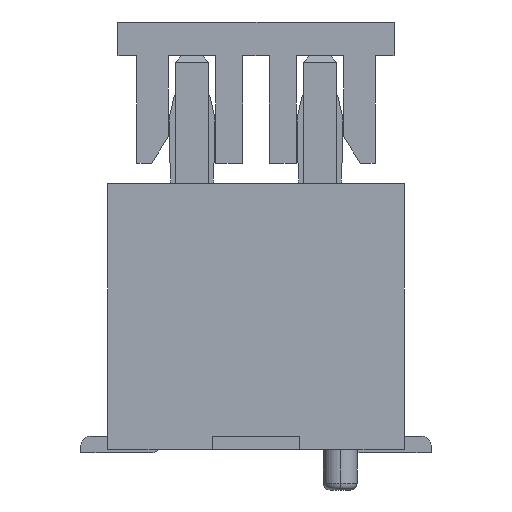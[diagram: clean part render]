
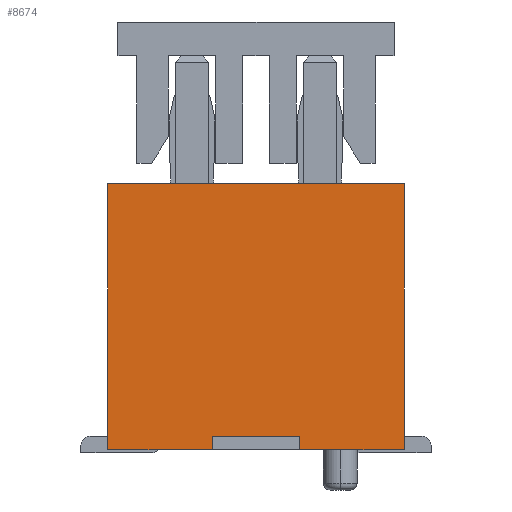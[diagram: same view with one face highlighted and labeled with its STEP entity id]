
A CAD part, left-side view. The second image highlights one B-rep face of the part: STEP entity #8674.
In plain terms, the highlighted planar face has unit normal (-1, 0, 0).
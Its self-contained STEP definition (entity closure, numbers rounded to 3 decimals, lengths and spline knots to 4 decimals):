
#1125 = CARTESIAN_POINT ( 'NONE',  ( -4.95, 0., 0.2 ) ) ;
#1767 = ORIENTED_EDGE ( 'NONE', *, *, #16684, .F. ) ;
#2089 = CARTESIAN_POINT ( 'NONE',  ( -4.95, 2.2, 3.95 ) ) ;
#2774 = VERTEX_POINT ( 'NONE', #34217 ) ;
#5104 = VERTEX_POINT ( 'NONE', #18031 ) ;
#7087 = EDGE_LOOP ( 'NONE', ( #42285, #20546, #53380, #12403, #53013, #1767, #44336, #43879 ) ) ;
#7110 = AXIS2_PLACEMENT_3D ( 'NONE', #16045, #35564, #45152 ) ;
#7736 = LINE ( 'NONE', #26304, #55014 ) ;
#7847 = LINE ( 'NONE', #41426, #17289 ) ;
#8179 = DIRECTION ( 'NONE',  ( 0., 0., 1. ) ) ;
#8535 = LINE ( 'NONE', #21990, #32564 ) ;
#8674 = ADVANCED_FACE ( 'NONE', ( #44524 ), #25979, .F. ) ;
#8841 = DIRECTION ( 'NONE',  ( 0., 1., 0. ) ) ;
#12403 = ORIENTED_EDGE ( 'NONE', *, *, #62633, .F. ) ;
#12580 = CARTESIAN_POINT ( 'NONE',  ( -4.95, 0.65, 0.2 ) ) ;
#13134 = VERTEX_POINT ( 'NONE', #23618 ) ;
#16045 = CARTESIAN_POINT ( 'NONE',  ( -4.95, 0., 0. ) ) ;
#16684 = EDGE_CURVE ( 'NONE', #5104, #13134, #48354, .T. ) ;
#17289 = VECTOR ( 'NONE', #8179, 1000. ) ;
#18031 = CARTESIAN_POINT ( 'NONE',  ( -4.95, -2.2, 3.95 ) ) ;
#18630 = VECTOR ( 'NONE', #56003, 1000. ) ;
#18974 = DIRECTION ( 'NONE',  ( 0., 0., -1. ) ) ;
#20546 = ORIENTED_EDGE ( 'NONE', *, *, #33921, .T. ) ;
#21990 = CARTESIAN_POINT ( 'NONE',  ( -4.95, 2.1, 0. ) ) ;
#22793 = LINE ( 'NONE', #41630, #18630 ) ;
#23618 = CARTESIAN_POINT ( 'NONE',  ( -4.95, -2.2, 0. ) ) ;
#23701 = VECTOR ( 'NONE', #48172, 1000. ) ;
#23790 = CARTESIAN_POINT ( 'NONE',  ( -4.95, -2.2, 1.975 ) ) ;
#24569 = EDGE_CURVE ( 'NONE', #13134, #41077, #7736, .T. ) ;
#25162 = CARTESIAN_POINT ( 'NONE',  ( -4.95, 0.65, 0. ) ) ;
#25979 = PLANE ( 'NONE',  #7110 ) ;
#26304 = CARTESIAN_POINT ( 'NONE',  ( -4.95, -1.325, 0. ) ) ;
#27696 = DIRECTION ( 'NONE',  ( 0., -1., 0. ) ) ;
#29568 = VECTOR ( 'NONE', #18974, 1000. ) ;
#31263 = EDGE_CURVE ( 'NONE', #54895, #32854, #7847, .T. ) ;
#32564 = VECTOR ( 'NONE', #8841, 1000. ) ;
#32809 = VECTOR ( 'NONE', #50023, 1000. ) ;
#32854 = VERTEX_POINT ( 'NONE', #2089 ) ;
#33419 = VECTOR ( 'NONE', #27696, 1000. ) ;
#33921 = EDGE_CURVE ( 'NONE', #34000, #61869, #43713, .T. ) ;
#34000 = VERTEX_POINT ( 'NONE', #25162 ) ;
#34217 = CARTESIAN_POINT ( 'NONE',  ( -4.95, -0.65, 0.2 ) ) ;
#35564 = DIRECTION ( 'NONE',  ( 1., 0., 0. ) ) ;
#36342 = CARTESIAN_POINT ( 'NONE',  ( -4.95, -0.65, 0. ) ) ;
#37980 = CARTESIAN_POINT ( 'NONE',  ( -4.95, 2.2, 0. ) ) ;
#39173 = LINE ( 'NONE', #1125, #32809 ) ;
#41077 = VERTEX_POINT ( 'NONE', #36342 ) ;
#41292 = EDGE_CURVE ( 'NONE', #2774, #61869, #39173, .T. ) ;
#41426 = CARTESIAN_POINT ( 'NONE',  ( -4.95, 2.2, 1.975 ) ) ;
#41630 = CARTESIAN_POINT ( 'NONE',  ( -4.95, -0.65, 0.1 ) ) ;
#42285 = ORIENTED_EDGE ( 'NONE', *, *, #48771, .F. ) ;
#43034 = CARTESIAN_POINT ( 'NONE',  ( -4.95, 0., 3.95 ) ) ;
#43713 = LINE ( 'NONE', #63188, #23701 ) ;
#43879 = ORIENTED_EDGE ( 'NONE', *, *, #31263, .F. ) ;
#44336 = ORIENTED_EDGE ( 'NONE', *, *, #56527, .F. ) ;
#44524 = FACE_OUTER_BOUND ( 'NONE', #7087, .T. ) ;
#45152 = DIRECTION ( 'NONE',  ( 0., 1., 0. ) ) ;
#48172 = DIRECTION ( 'NONE',  ( 0., 0., 1. ) ) ;
#48354 = LINE ( 'NONE', #23790, #29568 ) ;
#48771 = EDGE_CURVE ( 'NONE', #34000, #54895, #8535, .T. ) ;
#50023 = DIRECTION ( 'NONE',  ( 0., 1., 0. ) ) ;
#51837 = DIRECTION ( 'NONE',  ( 0., 1., 0. ) ) ;
#53013 = ORIENTED_EDGE ( 'NONE', *, *, #24569, .F. ) ;
#53380 = ORIENTED_EDGE ( 'NONE', *, *, #41292, .F. ) ;
#54895 = VERTEX_POINT ( 'NONE', #37980 ) ;
#55014 = VECTOR ( 'NONE', #51837, 1000. ) ;
#56003 = DIRECTION ( 'NONE',  ( 0., 0., 1. ) ) ;
#56527 = EDGE_CURVE ( 'NONE', #32854, #5104, #61555, .T. ) ;
#61555 = LINE ( 'NONE', #43034, #33419 ) ;
#61869 = VERTEX_POINT ( 'NONE', #12580 ) ;
#62633 = EDGE_CURVE ( 'NONE', #41077, #2774, #22793, .T. ) ;
#63188 = CARTESIAN_POINT ( 'NONE',  ( -4.95, 0.65, 0.1 ) ) ;
